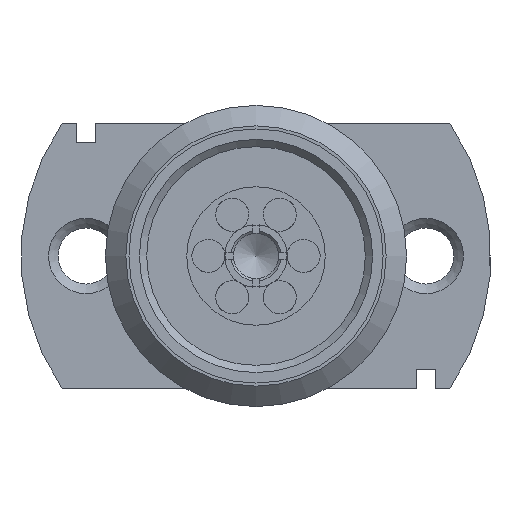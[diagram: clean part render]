
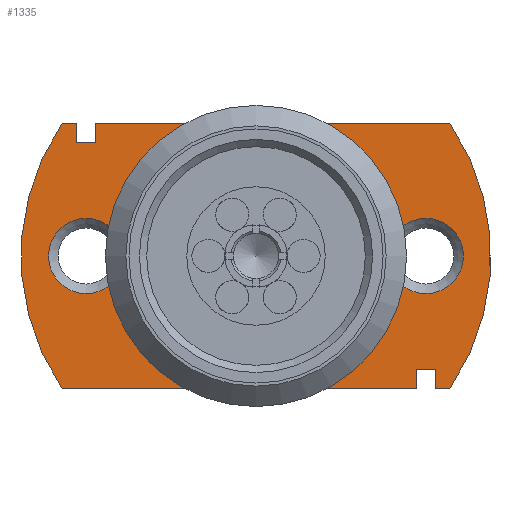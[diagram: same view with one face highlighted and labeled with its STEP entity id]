
A CAD part, left-side view. The second image highlights one B-rep face of the part: STEP entity #1335.
In plain terms, the highlighted planar face has unit normal (-1, 0, 0).
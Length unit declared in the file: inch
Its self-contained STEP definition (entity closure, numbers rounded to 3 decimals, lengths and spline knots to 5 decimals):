
#97=CIRCLE('',#1495,0.0955);
#98=CIRCLE('',#1496,0.195);
#99=CIRCLE('',#1497,0.195);
#100=CIRCLE('',#1498,0.03125);
#101=CIRCLE('',#1499,0.03125);
#273=ORIENTED_EDGE('',*,*,#608,.T.);
#274=ORIENTED_EDGE('',*,*,#609,.T.);
#275=ORIENTED_EDGE('',*,*,#610,.T.);
#276=ORIENTED_EDGE('',*,*,#611,.T.);
#277=ORIENTED_EDGE('',*,*,#612,.F.);
#278=ORIENTED_EDGE('',*,*,#613,.F.);
#279=ORIENTED_EDGE('',*,*,#614,.F.);
#280=ORIENTED_EDGE('',*,*,#615,.T.);
#281=ORIENTED_EDGE('',*,*,#616,.T.);
#282=ORIENTED_EDGE('',*,*,#617,.T.);
#283=ORIENTED_EDGE('',*,*,#549,.F.);
#284=ORIENTED_EDGE('',*,*,#618,.F.);
#285=ORIENTED_EDGE('',*,*,#547,.F.);
#286=ORIENTED_EDGE('',*,*,#619,.T.);
#287=ORIENTED_EDGE('',*,*,#620,.T.);
#547=EDGE_CURVE('',#725,#726,#852,.T.);
#549=EDGE_CURVE('',#727,#728,#854,.T.);
#608=EDGE_CURVE('',#776,#776,#97,.T.);
#609=EDGE_CURVE('',#725,#777,#870,.T.);
#610=EDGE_CURVE('',#777,#778,#871,.T.);
#611=EDGE_CURVE('',#778,#779,#872,.T.);
#612=EDGE_CURVE('',#780,#779,#873,.T.);
#613=EDGE_CURVE('',#781,#780,#98,.T.);
#614=EDGE_CURVE('',#782,#781,#874,.T.);
#615=EDGE_CURVE('',#782,#783,#875,.T.);
#616=EDGE_CURVE('',#783,#784,#876,.T.);
#617=EDGE_CURVE('',#784,#728,#877,.T.);
#618=EDGE_CURVE('',#726,#727,#99,.T.);
#619=EDGE_CURVE('',#785,#785,#100,.T.);
#620=EDGE_CURVE('',#786,#786,#101,.T.);
#725=VERTEX_POINT('',#2073);
#726=VERTEX_POINT('',#2075);
#727=VERTEX_POINT('',#2079);
#728=VERTEX_POINT('',#2080);
#776=VERTEX_POINT('',#2217);
#777=VERTEX_POINT('',#2219);
#778=VERTEX_POINT('',#2221);
#779=VERTEX_POINT('',#2223);
#780=VERTEX_POINT('',#2225);
#781=VERTEX_POINT('',#2227);
#782=VERTEX_POINT('',#2229);
#783=VERTEX_POINT('',#2231);
#784=VERTEX_POINT('',#2233);
#785=VERTEX_POINT('',#2237);
#786=VERTEX_POINT('',#2239);
#852=LINE('',#2074,#914);
#854=LINE('',#2078,#916);
#870=LINE('',#2218,#932);
#871=LINE('',#2220,#933);
#872=LINE('',#2222,#934);
#873=LINE('',#2224,#935);
#874=LINE('',#2228,#936);
#875=LINE('',#2230,#937);
#876=LINE('',#2232,#938);
#877=LINE('',#2234,#939);
#914=VECTOR('',#1627,39.37008);
#916=VECTOR('',#1631,39.37008);
#932=VECTOR('',#1775,39.37008);
#933=VECTOR('',#1776,39.37008);
#934=VECTOR('',#1777,39.37008);
#935=VECTOR('',#1778,39.37008);
#936=VECTOR('',#1781,39.37008);
#937=VECTOR('',#1782,39.37008);
#938=VECTOR('',#1783,39.37008);
#939=VECTOR('',#1784,39.37008);
#1014=EDGE_LOOP('',(#273));
#1015=EDGE_LOOP('',(#274,#275,#276,#277,#278,#279,#280,#281,#282,#283,#284,
#285));
#1016=EDGE_LOOP('',(#286));
#1017=EDGE_LOOP('',(#287));
#1158=FACE_BOUND('',#1014,.T.);
#1159=FACE_BOUND('',#1015,.T.);
#1160=FACE_BOUND('',#1016,.T.);
#1161=FACE_BOUND('',#1017,.T.);
#1276=PLANE('',#1494);
#1335=ADVANCED_FACE('',(#1158,#1159,#1160,#1161),#1276,.T.);
#1494=AXIS2_PLACEMENT_3D('',#2215,#1771,#1772);
#1495=AXIS2_PLACEMENT_3D('',#2216,#1773,#1774);
#1496=AXIS2_PLACEMENT_3D('',#2226,#1779,#1780);
#1497=AXIS2_PLACEMENT_3D('',#2235,#1785,#1786);
#1498=AXIS2_PLACEMENT_3D('',#2236,#1787,#1788);
#1499=AXIS2_PLACEMENT_3D('',#2238,#1789,#1790);
#1627=DIRECTION('',(0.,1.,0.));
#1631=DIRECTION('',(0.,-1.,0.));
#1771=DIRECTION('',(-1.,0.,0.));
#1772=DIRECTION('',(0.,0.,1.));
#1773=DIRECTION('',(1.,0.,0.));
#1774=DIRECTION('',(0.,0.,-1.));
#1775=DIRECTION('',(0.,0.,1.));
#1776=DIRECTION('',(0.,-1.,0.));
#1777=DIRECTION('',(0.,0.,-1.));
#1778=DIRECTION('',(0.,1.,0.));
#1779=DIRECTION('',(1.,0.,0.));
#1780=DIRECTION('',(0.,0.,-1.));
#1781=DIRECTION('',(0.,-1.,0.));
#1782=DIRECTION('',(0.,0.,-1.));
#1783=DIRECTION('',(0.,1.,0.));
#1784=DIRECTION('',(0.,0.,1.));
#1785=DIRECTION('',(1.,0.,0.));
#1786=DIRECTION('',(0.,0.,-1.));
#1787=DIRECTION('',(1.,0.,0.));
#1788=DIRECTION('',(0.,0.,-1.));
#1789=DIRECTION('',(1.,0.,0.));
#1790=DIRECTION('',(0.,0.,-1.));
#2073=CARTESIAN_POINT('',(0.36,-0.133,-0.11));
#2074=CARTESIAN_POINT('',(0.36,-0.16101,-0.11));
#2075=CARTESIAN_POINT('',(0.36,0.16101,-0.11));
#2078=CARTESIAN_POINT('',(0.36,0.16101,0.11));
#2079=CARTESIAN_POINT('',(0.36,0.16101,0.11));
#2080=CARTESIAN_POINT('',(0.36,0.149,0.11));
#2215=CARTESIAN_POINT('',(0.36,0.101,0.));
#2216=CARTESIAN_POINT('',(0.36,0.,0.));
#2217=CARTESIAN_POINT('',(0.36,0.,-0.0955));
#2218=CARTESIAN_POINT('',(0.36,-0.133,-0.11));
#2219=CARTESIAN_POINT('',(0.36,-0.133,-0.094));
#2220=CARTESIAN_POINT('',(0.36,-0.133,-0.094));
#2221=CARTESIAN_POINT('',(0.36,-0.149,-0.094));
#2222=CARTESIAN_POINT('',(0.36,-0.149,-0.094));
#2223=CARTESIAN_POINT('',(0.36,-0.149,-0.11));
#2224=CARTESIAN_POINT('',(0.36,-0.16101,-0.11));
#2225=CARTESIAN_POINT('',(0.36,-0.16101,-0.11));
#2226=CARTESIAN_POINT('',(0.36,0.,0.));
#2227=CARTESIAN_POINT('',(0.36,-0.16101,0.11));
#2228=CARTESIAN_POINT('',(0.36,0.16101,0.11));
#2229=CARTESIAN_POINT('',(0.36,0.133,0.11));
#2230=CARTESIAN_POINT('',(0.36,0.133,0.11));
#2231=CARTESIAN_POINT('',(0.36,0.133,0.094));
#2232=CARTESIAN_POINT('',(0.36,0.133,0.094));
#2233=CARTESIAN_POINT('',(0.36,0.149,0.094));
#2234=CARTESIAN_POINT('',(0.36,0.149,0.094));
#2235=CARTESIAN_POINT('',(0.36,0.,0.));
#2236=CARTESIAN_POINT('',(0.36,0.141,0.));
#2237=CARTESIAN_POINT('',(0.36,0.141,-0.03125));
#2238=CARTESIAN_POINT('',(0.36,-0.141,0.));
#2239=CARTESIAN_POINT('',(0.36,-0.141,-0.03125));
